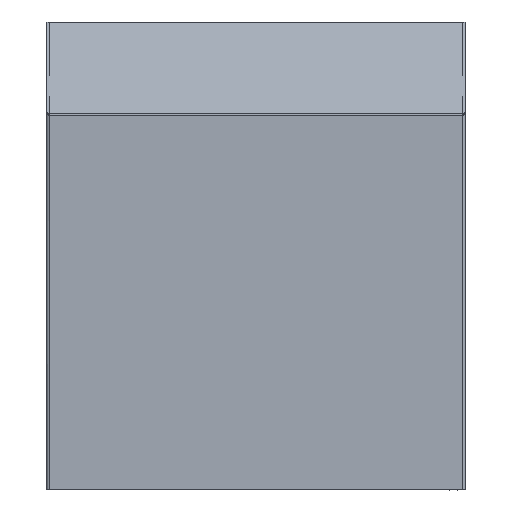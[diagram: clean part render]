
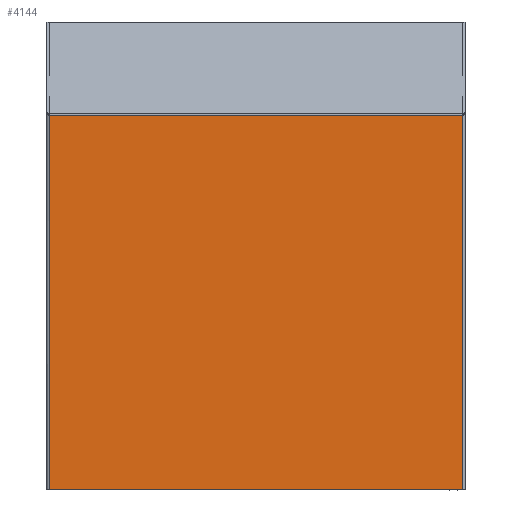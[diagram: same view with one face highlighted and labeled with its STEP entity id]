
A CAD part, top view. The second image highlights one B-rep face of the part: STEP entity #4144.
In plain terms, the highlighted planar face has unit normal (0, 0, 1) as drawn and (0, 0, -1) by its records, which use the part's own axes.
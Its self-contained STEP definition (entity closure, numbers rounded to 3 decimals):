
#31 = CARTESIAN_POINT ( 'NONE',  ( 2.63, 441.325, -88.9 ) ) ;
#287 = PLANE ( 'NONE',  #6857 ) ;
#569 = CARTESIAN_POINT ( 'NONE',  ( 391.37, 352.425, -88.9 ) ) ;
#734 = LINE ( 'NONE', #9899, #3025 ) ;
#1169 = DIRECTION ( 'NONE',  ( 0., 0., -1. ) ) ;
#1240 = VERTEX_POINT ( 'NONE', #1742 ) ;
#1742 = CARTESIAN_POINT ( 'NONE',  ( 391.37, 0., -88.9 ) ) ;
#2647 = EDGE_CURVE ( 'NONE', #3461, #1240, #9722, .T. ) ;
#2964 = EDGE_LOOP ( 'NONE', ( #7245, #4307, #9800, #10343 ) ) ;
#2996 = VERTEX_POINT ( 'NONE', #9781 ) ;
#3025 = VECTOR ( 'NONE', #3905, 1000. ) ;
#3143 = CARTESIAN_POINT ( 'NONE',  ( 0., 352.425, -88.9 ) ) ;
#3461 = VERTEX_POINT ( 'NONE', #569 ) ;
#3905 = DIRECTION ( 'NONE',  ( 1., 0., 0. ) ) ;
#4008 = DIRECTION ( 'NONE',  ( 1., 0., 0. ) ) ;
#4144 = ADVANCED_FACE ( 'NONE', ( #7663 ), #287, .T. ) ;
#4307 = ORIENTED_EDGE ( 'NONE', *, *, #6954, .T. ) ;
#4311 = DIRECTION ( 'NONE',  ( 0., -1., 0. ) ) ;
#4522 = EDGE_CURVE ( 'NONE', #2996, #9540, #7396, .T. ) ;
#6538 = VECTOR ( 'NONE', #4008, 1000. ) ;
#6857 = AXIS2_PLACEMENT_3D ( 'NONE', #9725, #1169, #7167 ) ;
#6954 = EDGE_CURVE ( 'NONE', #2996, #3461, #10835, .T. ) ;
#7167 = DIRECTION ( 'NONE',  ( -1., 0., 0. ) ) ;
#7245 = ORIENTED_EDGE ( 'NONE', *, *, #4522, .F. ) ;
#7396 = LINE ( 'NONE', #31, #9389 ) ;
#7414 = CARTESIAN_POINT ( 'NONE',  ( 2.63, 0., -88.9 ) ) ;
#7462 = VECTOR ( 'NONE', #10387, 1000. ) ;
#7663 = FACE_OUTER_BOUND ( 'NONE', #2964, .T. ) ;
#9389 = VECTOR ( 'NONE', #4311, 1000. ) ;
#9428 = EDGE_CURVE ( 'NONE', #9540, #1240, #734, .T. ) ;
#9519 = CARTESIAN_POINT ( 'NONE',  ( 391.37, 441.325, -88.9 ) ) ;
#9540 = VERTEX_POINT ( 'NONE', #7414 ) ;
#9722 = LINE ( 'NONE', #9519, #7462 ) ;
#9725 = CARTESIAN_POINT ( 'NONE',  ( 0., 441.325, -88.9 ) ) ;
#9781 = CARTESIAN_POINT ( 'NONE',  ( 2.63, 352.425, -88.9 ) ) ;
#9800 = ORIENTED_EDGE ( 'NONE', *, *, #2647, .T. ) ;
#9899 = CARTESIAN_POINT ( 'NONE',  ( 0., 0., -88.9 ) ) ;
#10343 = ORIENTED_EDGE ( 'NONE', *, *, #9428, .F. ) ;
#10387 = DIRECTION ( 'NONE',  ( 0., -1., 0. ) ) ;
#10835 = LINE ( 'NONE', #3143, #6538 ) ;
